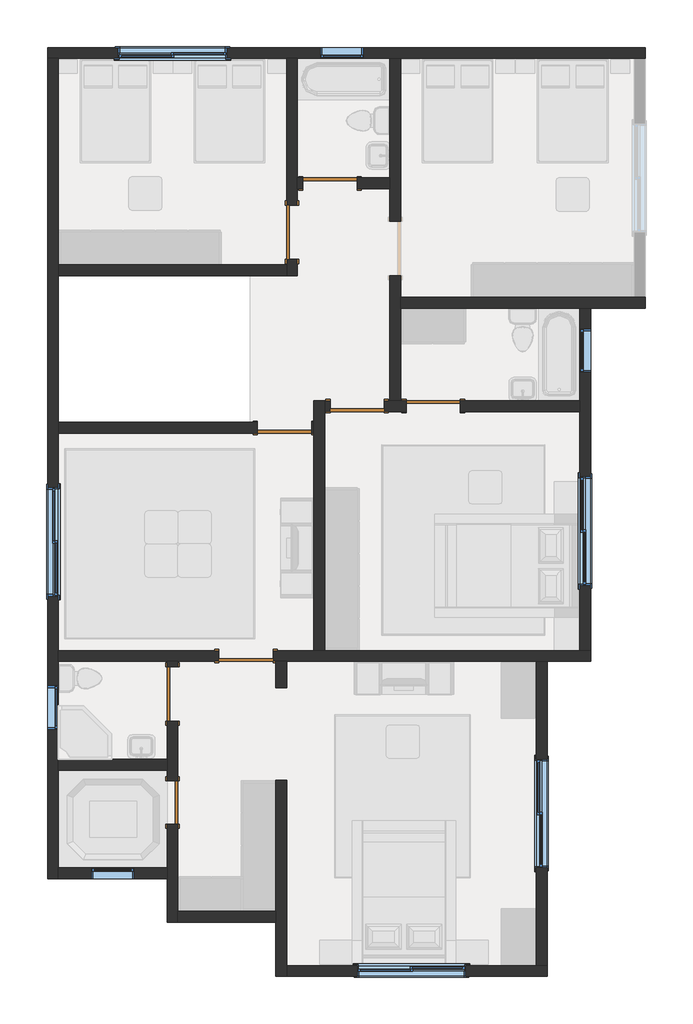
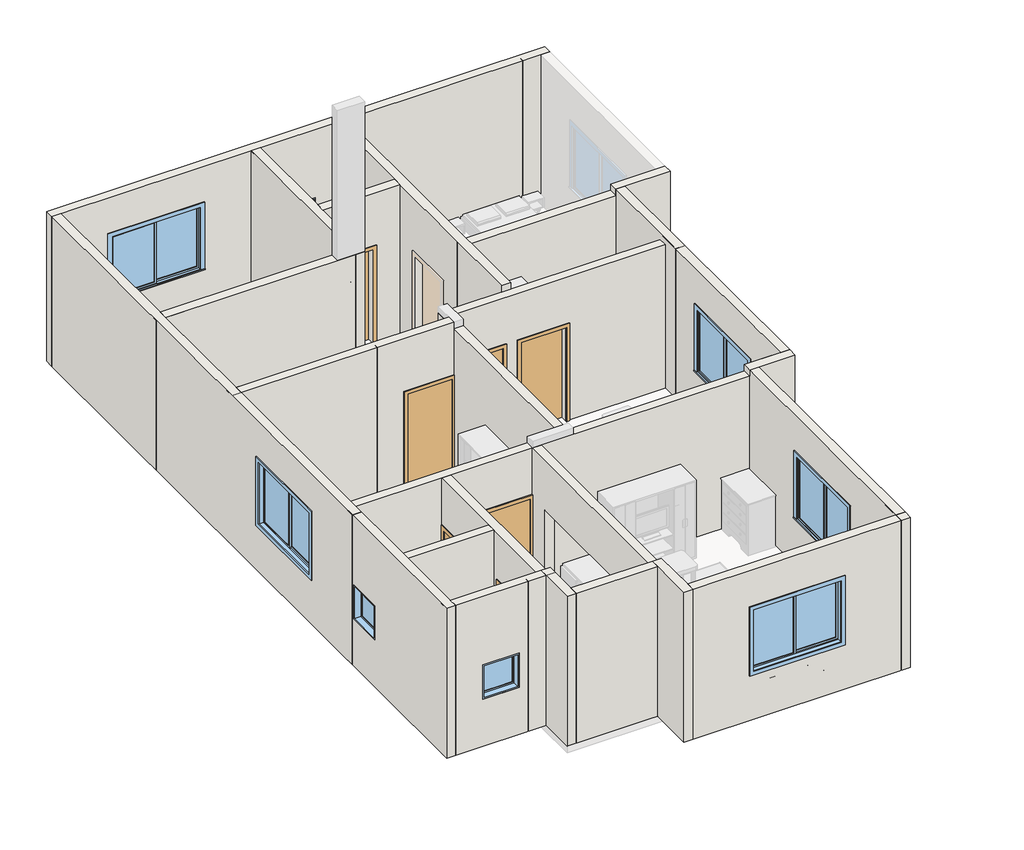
# One storey, part 1 of 2: 19 walls, 9 windows, 8 doors.
"""IFC4 building model written with IfcOpenShell, lengths in millimetres."""

import ifcopenshell
import ifcopenshell.guid

model = None  # the IFC model being written
_history = None  # IfcOwnerHistory: only IFC2X3 demands one
_inside = {}  # id of a spatial element -> (the spatial element, [elements in it])
_under = {}  # id of a project, library or spatial element -> (it, [spatial elements below it])
_declared = {}  # id of a project -> (the project, [libraries it declares])
_typed = {}  # id of a type object -> (the type object, [elements of that type])
_made_of = {}  # id of a material, layer set ... -> (it, [elements and type objects made of it])


def new_model(schema):
    """Start an empty IFC model of exactly this schema.

    Asked for "IFC4X3", IfcOpenShell would pick the latest addendum, in which some entities
    have other attributes; the version numbers below select the first issue.
    IFC2X3 requires an IfcOwnerHistory on every rooted entity: one is made here for all.
    """
    global model, _history
    if schema == "IFC4X3":
        model = ifcopenshell.file(schema_version=(4, 3, 0, 0))
    else:
        model = ifcopenshell.file(schema=schema)
    _inside.clear()
    _under.clear()
    _declared.clear()
    _typed.clear()
    _made_of.clear()
    _history = None
    if model.schema == "IFC2X3":
        org = make("IfcOrganization", Name="unknown")
        user = make(
            "IfcPersonAndOrganization",
            ThePerson=make("IfcPerson", FamilyName="unknown"),
            TheOrganization=org,
        )
        app = make(
            "IfcApplication",
            ApplicationDeveloper=org,
            Version="unknown",
            ApplicationFullName="unknown",
            ApplicationIdentifier="unknown",
        )
        _history = make(
            "IfcOwnerHistory",
            OwningUser=user,
            OwningApplication=app,
            ChangeAction="ADDED",
            CreationDate=0,
        )
    return model


def make(cls, **values):
    """One entity of the class cls with the attributes given. An attribute that is None is left unset."""
    return model.create_entity(
        cls, **{name: value for name, value in values.items() if value is not None}
    )


def rooted(cls, **values):
    """An entity with a GlobalId (a new one), such as an element, a storey or a relation."""
    return make(cls, GlobalId=ifcopenshell.guid.new(), OwnerHistory=_history, **values)


def si_unit(unit_type, name, prefix=None):
    """IfcSIUnit, for example si_unit("LENGTHUNIT", "METRE", prefix="MILLI")."""
    return make("IfcSIUnit", UnitType=unit_type, Prefix=prefix, Name=name)


def assignment(units):
    """IfcUnitAssignment: the units of a project."""
    return None if units is None else make("IfcUnitAssignment", Units=units)


def point(xyz):
    """IfcCartesianPoint."""
    return None if xyz is None else make("IfcCartesianPoint", Coordinates=xyz)


def direction(xyz):
    """IfcDirection."""
    return None if xyz is None else make("IfcDirection", DirectionRatios=xyz)


def frame(location, z_axis=None, x_axis=None):
    """IfcAxis2Placement3D, a coordinate frame: its origin and axes. An axis left out is left unset."""
    return make(
        "IfcAxis2Placement3D",
        Location=point(location),
        Axis=direction(z_axis),
        RefDirection=direction(x_axis),
    )


def origin():
    """The frame at (0, 0, 0) with its axes left unset."""
    return frame((0.0, 0.0, 0.0))


def origin_with_axes():
    """The frame at (0, 0, 0) with the z axis (0, 0, 1) and the x axis (1, 0, 0) written out."""
    return frame((0.0, 0.0, 0.0), z_axis=(0.0, 0.0, 1.0), x_axis=(1.0, 0.0, 0.0))


def place(relative_to, where):
    """IfcLocalPlacement: puts the frame where relative to a parent placement (None: the world)."""
    return make(
        "IfcLocalPlacement", PlacementRelTo=relative_to, RelativePlacement=where
    )


def context(
    kind, dimensions, precision=None, world=None, true_north=None, identifier=None
):
    """IfcGeometricRepresentationContext, for example the 3D "Model" context."""
    return make(
        "IfcGeometricRepresentationContext",
        ContextIdentifier=identifier,
        ContextType=kind,
        CoordinateSpaceDimension=dimensions,
        Precision=precision,
        WorldCoordinateSystem=world,
        TrueNorth=true_north,
    )


def project(units=None, contexts=None):
    """IfcProject with its units and contexts."""
    return rooted(
        "IfcProject",
        Name="project",
        RepresentationContexts=contexts,
        UnitsInContext=assignment(units),
    )


def spatial(cls, under=None, at=None, **own):
    """A site, building, storey or space (cls), placed at a placement, below another one or the project."""
    s = rooted(cls, ObjectPlacement=at, **own)
    if under is not None:
        _under.setdefault(under.id(), (under, []))[1].append(s)
    return s


def polyline(points):
    """IfcPolyline through the points."""
    return make("IfcPolyline", Points=[point(p) for p in points])


def outline(outer, holes=None, kind="AREA"):
    """IfcArbitraryClosedProfileDef: a profile drawn as a closed curve; with holes, ...WithVoids."""
    if holes is None:
        return make("IfcArbitraryClosedProfileDef", ProfileType=kind, OuterCurve=outer)
    return make(
        "IfcArbitraryProfileDefWithVoids",
        ProfileType=kind,
        OuterCurve=outer,
        InnerCurves=holes,
    )


def extrude(swept, where, along, depth):
    """IfcExtrudedAreaSolid: the profile swept, set in the frame where, extruded along a direction by depth."""
    return make(
        "IfcExtrudedAreaSolid",
        SweptArea=swept,
        Position=where,
        ExtrudedDirection=direction(along),
        Depth=depth,
    )


def faces_of(points, faces, orient=None, outer=None):
    """IfcFace entities. A face is a list of loops; a loop is a list of indices into points, from 0.

    orient and outer hold one flag for each loop. By default every Orientation is true, the
    first loop of a face is its IfcFaceOuterBound and the others are IfcFaceBound.
    """
    made = []
    for i, loops in enumerate(faces):
        bounds = []
        for j, loop in enumerate(loops):
            is_outer = j == 0 if outer is None else outer[i][j]
            bounds.append(
                make(
                    "IfcFaceOuterBound" if is_outer else "IfcFaceBound",
                    Bound=make("IfcPolyLoop", Polygon=[points[k] for k in loop]),
                    Orientation=True if orient is None else orient[i][j],
                )
            )
        made.append(make("IfcFace", Bounds=bounds))
    return made


def faceted_brep(points, faces, orient=None, outer=None, voids=None):
    """IfcFacetedBrep: a solid bounded by flat faces; with voids (closed shells), ...WithVoids."""
    shared = [point(p) for p in points]
    hull = make("IfcClosedShell", CfsFaces=faces_of(shared, faces, orient, outer))
    if voids is None:
        return make("IfcFacetedBrep", Outer=hull)
    return make(
        "IfcFacetedBrepWithVoids",
        Outer=hull,
        Voids=[
            make(cls, CfsFaces=faces_of(shared, fs, o, b)) for cls, fs, o, b in voids
        ],
    )


def shape(context_of_items, identifier, shape_type, items):
    """IfcShapeRepresentation: the items that make up one representation, for example the "Body"."""
    return make(
        "IfcShapeRepresentation",
        ContextOfItems=context_of_items,
        RepresentationIdentifier=identifier,
        RepresentationType=shape_type,
        Items=items,
    )


def source(mapping_origin, context_of_items, identifier, shape_type, items):
    """IfcRepresentationMap: a shape defined once, which mapped items show again and again."""
    return make(
        "IfcRepresentationMap",
        MappingOrigin=mapping_origin,
        MappedRepresentation=shape(context_of_items, identifier, shape_type, items),
    )


def transform(
    local_origin,
    x_axis=None,
    y_axis=None,
    z_axis=None,
    scale=None,
    scale2=None,
    scale3=None,
    uniform=True,
):
    """IfcCartesianTransformationOperator3D, or its non-uniform kind. x_axis, y_axis, z_axis: its Axis1, 2, 3."""
    if uniform:
        return make(
            "IfcCartesianTransformationOperator3D",
            Axis1=direction(x_axis),
            Axis2=direction(y_axis),
            LocalOrigin=point(local_origin),
            Scale=scale,
            Axis3=direction(z_axis),
        )
    return make(
        "IfcCartesianTransformationOperator3DnonUniform",
        Axis1=direction(x_axis),
        Axis2=direction(y_axis),
        LocalOrigin=point(local_origin),
        Scale=scale,
        Axis3=direction(z_axis),
        Scale2=scale2,
        Scale3=scale3,
    )


def mapped(mapping_source, mapping_target):
    """IfcMappedItem: shows the shape of a source again, moved by a transform."""
    return make(
        "IfcMappedItem", MappingSource=mapping_source, MappingTarget=mapping_target
    )


def made_of(thing, what):
    """Note that an element or type object is made of a material, layer set ...; save() writes the relation."""
    if what is not None:
        _made_of.setdefault(what.id(), (what, []))[1].append(thing)
    return thing


def element(
    cls,
    number,
    at=None,
    inside=None,
    cuts=None,
    type_object=None,
    material=None,
    context=None,
    identifier="Body",
    shape_type=None,
    held_by="IfcProductDefinitionShape",
    body=None,
    shapes=None,
    **own,
):
    """One element of the class cls, such as IfcWall. Its Tag is "e" and its number.

    at: its placement. inside: the storey or other place that contains it. cuts: it is an
    opening in that element (IfcRelVoidsElement). A single representation is given by context,
    identifier, shape_type and body (its items); several are given by shapes. held_by: the class
    of the entity that holds the representations. save() writes the other relations.
    """
    e = rooted(cls, Tag="e%d" % number, ObjectPlacement=at, **own)
    if body is not None:
        shapes = [shape(context, identifier, shape_type, body)]
    if shapes is not None:
        e.Representation = make(held_by, Representations=shapes)
    if inside is not None:
        _inside.setdefault(inside.id(), (inside, []))[1].append(e)
    if cuts is not None:
        rooted(
            "IfcRelVoidsElement", RelatingBuildingElement=cuts, RelatedOpeningElement=e
        )
    if type_object is not None:
        _typed.setdefault(type_object.id(), (type_object, []))[1].append(e)
    return made_of(e, material)


def aggregate(whole, parts):
    """IfcRelAggregates: a whole, such as a stair, and the parts it consists of."""
    return rooted("IfcRelAggregates", RelatingObject=whole, RelatedObjects=parts)


def save(model, path):
    """Write the relations noted so far, then the file.

    IfcRelAggregates (storeys below a building ...), IfcRelContainedInSpatialStructure (elements
    in a storey), IfcRelDefinesByType, IfcRelAssociatesMaterial and IfcRelDeclares: one each for
    every whole, place, type object, material and project.
    """
    for whole, parts in _under.values():
        aggregate(whole, parts)
    for where, things in _inside.values():
        rooted(
            "IfcRelContainedInSpatialStructure",
            RelatedElements=things,
            RelatingStructure=where,
        )
    for kind, things in _typed.values():
        rooted("IfcRelDefinesByType", RelatedObjects=things, RelatingType=kind)
    for what, things in _made_of.values():
        rooted("IfcRelAssociatesMaterial", RelatedObjects=things, RelatingMaterial=what)
    for by, libraries in _declared.values():
        rooted("IfcRelDeclares", RelatingContext=by, RelatedDefinitions=libraries)
    model.write(path)


def m_single_flush_5dd7b505(model_context):
    return source(origin(), model_context, "Body", "SweptSolid", [
        extrude(outline(polyline([(2276.0, -576.0), (0.0, -576.0), (0.0, -500.0), (2200.0, -500.0), (2200.0, 500.0), (0.0, 500.0), (0.0, 576.0), (2276.0, 576.0), (2276.0, -576.0)])), frame((0.0, 100.0, 0.0), z_axis=(0.0, 1.0, 0.0), x_axis=(0.0, 0.0, 1.0)), (0.0, 0.0, 1.0), 25.0),
        extrude(outline(polyline([(2276.0, 576.0), (2276.0, -576.0), (0.0, -576.0), (0.0, -500.0), (2200.0, -500.0), (2200.0, 500.0), (0.0, 500.0), (0.0, 576.0), (2276.0, 576.0)])), frame((0.0, -125.0, 0.0), z_axis=(0.0, 1.0, 0.0), x_axis=(0.0, 0.0, 1.0)), (0.0, 0.0, 1.0), 25.0),
        extrude(outline(polyline([(500.0, 49.0), (-500.0, 49.0), (-500.0, 100.0), (500.0, 100.0), (500.0, 49.0)])), origin_with_axes(), (0.0, 0.0, 1.0), 2200.0),
    ])


def m_single_flush_07c1bf8b(model_context):
    return source(origin(), model_context, "Body", "SweptSolid", [
        extrude(outline(polyline([(2276.0, -476.0), (0.0, -476.0), (0.0, -400.0), (2200.0, -400.0), (2200.0, 400.0), (0.0, 400.0), (0.0, 476.0), (2276.0, 476.0), (2276.0, -476.0)])), frame((0.0, -125.0, 0.0), z_axis=(0.0, 1.0, 0.0), x_axis=(0.0, 0.0, 1.0)), (0.0, 0.0, 1.0), 25.0),
        extrude(outline(polyline([(2276.0, 476.0), (2276.0, -476.0), (0.0, -476.0), (0.0, -400.0), (2200.0, -400.0), (2200.0, 400.0), (0.0, 400.0), (0.0, 476.0), (2276.0, 476.0)])), frame((0.0, 100.0, 0.0), z_axis=(0.0, 1.0, 0.0), x_axis=(0.0, 0.0, 1.0)), (0.0, 0.0, 1.0), 25.0),
        extrude(outline(polyline([(400.0, -49.0), (400.0, -100.0), (-400.0, -100.0), (-400.0, -49.0), (400.0, -49.0)])), origin_with_axes(), (0.0, 0.0, 1.0), 2200.0),
    ])


def m_single_flush_6cbb3975(model_context):
    return source(origin(), model_context, "Body", "SweptSolid", [
        extrude(outline(polyline([(2276.0, -576.0), (0.0, -576.0), (0.0, -500.0), (2200.0, -500.0), (2200.0, 500.0), (0.0, 500.0), (0.0, 576.0), (2276.0, 576.0), (2276.0, -576.0)])), frame((0.0, -125.0, 0.0), z_axis=(0.0, 1.0, 0.0), x_axis=(0.0, 0.0, 1.0)), (0.0, 0.0, 1.0), 25.0),
        extrude(outline(polyline([(2276.0, 576.0), (2276.0, -576.0), (0.0, -576.0), (0.0, -500.0), (2200.0, -500.0), (2200.0, 500.0), (0.0, 500.0), (0.0, 576.0), (2276.0, 576.0)])), frame((0.0, 100.0, 0.0), z_axis=(0.0, 1.0, 0.0), x_axis=(0.0, 0.0, 1.0)), (0.0, 0.0, 1.0), 25.0),
        extrude(outline(polyline([(500.0, -49.0), (500.0, -100.0), (-500.0, -100.0), (-500.0, -49.0), (500.0, -49.0)])), origin_with_axes(), (0.0, 0.0, 1.0), 2200.0),
    ])


def m_fixed_1d0fbe82(model_context):
    return source(origin(), model_context, "Body", "SweptSolid", [
        extrude(outline(polyline([(-337.0, 78.0), (337.0, 78.0), (337.0, 66.0), (-337.0, 66.0), (-337.0, 78.0)])), frame((0.0, 0.0, 1563.0), z_axis=(0.0, 0.0, 1.0), x_axis=(1.0, 0.0, 0.0)), (0.0, 0.0, 1.0), 674.0),
        extrude(outline(polyline([(2281.0, -381.0), (1519.0, -381.0), (1519.0, 381.0), (2281.0, 381.0), (2281.0, -381.0)]), holes=[polyline([(2237.0, -337.0), (2237.0, 337.0), (1563.0, 337.0), (1563.0, -337.0), (2237.0, -337.0)])]), frame((0.0, 50.0, 0.0), z_axis=(0.0, 1.0, 0.0), x_axis=(0.0, 0.0, 1.0)), (0.0, 0.0, 1.0), 44.0),
        extrude(outline(polyline([(2300.0, -400.0), (1500.0, -400.0), (1500.0, 400.0), (2300.0, 400.0), (2300.0, -400.0)]), holes=[polyline([(2281.0, -381.0), (2281.0, 381.0), (1519.0, 381.0), (1519.0, -381.0), (2281.0, -381.0)])]), frame((0.0, 50.0, 0.0), z_axis=(0.0, 1.0, 0.0), x_axis=(0.0, 0.0, 1.0)), (0.0, 0.0, 1.0), 63.0),
        extrude(outline(polyline([(2300.0, -400.0), (1500.0, -400.0), (1500.0, 400.0), (2300.0, 400.0), (2300.0, -400.0)]), holes=[polyline([(2268.0, -368.0), (2268.0, 368.0), (1532.0, 368.0), (1532.0, -368.0), (2268.0, -368.0)])]), frame((0.0, -87.0, 0.0), z_axis=(0.0, 1.0, 0.0), x_axis=(0.0, 0.0, 1.0)), (0.0, 0.0, 1.0), 137.0),
    ])


def m_fixed_a47e0898(model_context):
    return source(origin(), model_context, "Body", "SweptSolid", [
        extrude(outline(polyline([(-337.0, -78.0), (-337.0, -66.0), (337.0, -66.0), (337.0, -78.0), (-337.0, -78.0)])), frame((0.0, 0.0, 1563.0), z_axis=(0.0, 0.0, 1.0), x_axis=(1.0, 0.0, 0.0)), (0.0, 0.0, 1.0), 674.0),
        extrude(outline(polyline([(2281.0, -381.0), (1519.0, -381.0), (1519.0, 381.0), (2281.0, 381.0), (2281.0, -381.0)]), holes=[polyline([(2237.0, -337.0), (2237.0, 337.0), (1563.0, 337.0), (1563.0, -337.0), (2237.0, -337.0)])]), frame((0.0, -94.0, 0.0), z_axis=(0.0, 1.0, 0.0), x_axis=(0.0, 0.0, 1.0)), (0.0, 0.0, 1.0), 44.0),
        extrude(outline(polyline([(2300.0, -400.0), (1500.0, -400.0), (1500.0, 400.0), (2300.0, 400.0), (2300.0, -400.0)]), holes=[polyline([(2281.0, -381.0), (2281.0, 381.0), (1519.0, 381.0), (1519.0, -381.0), (2281.0, -381.0)])]), frame((0.0, -113.0, 0.0), z_axis=(0.0, 1.0, 0.0), x_axis=(0.0, 0.0, 1.0)), (0.0, 0.0, 1.0), 63.0),
        extrude(outline(polyline([(2300.0, -400.0), (1500.0, -400.0), (1500.0, 400.0), (2300.0, 400.0), (2300.0, -400.0)]), holes=[polyline([(2268.0, -368.0), (2268.0, 368.0), (1532.0, 368.0), (1532.0, -368.0), (2268.0, -368.0)])]), frame((0.0, -50.0, 0.0), z_axis=(0.0, 1.0, 0.0), x_axis=(0.0, 0.0, 1.0)), (0.0, 0.0, 1.0), 137.0),
    ])


def m_sliding_with_trim_8e0fa824(model_context):
    return source(origin(), model_context, "Body", "SweptSolid", [
        extrude(outline(polyline([(-936.5, 20.675), (-22.225, 20.675), (-22.225, 7.975), (-936.5, 7.975), (-936.5, 20.675)])), frame((0.0, 0.0, 978.5), z_axis=(0.0, 0.0, 1.0), x_axis=(1.0, 0.0, 0.0)), (0.0, 0.0, 1.0), 1373.0),
        extrude(outline(polyline([(2395.95, -980.95), (934.05, -980.95), (934.05, 22.225), (2395.95, 22.225), (2395.95, -980.95)]), holes=[polyline([(2351.5, -936.5), (2351.5, -22.225), (978.5, -22.225), (978.5, -936.5), (2351.5, -936.5)])]), frame((0.0, -7.9, 0.0), z_axis=(0.0, 1.0, 0.0), x_axis=(0.0, 0.0, 1.0)), (0.0, 0.0, 1.0), 44.45),
        extrude(outline(polyline([(-1069.95, 131.7), (1069.95, 131.7), (1069.95, 100.0), (-1069.95, 100.0), (-1069.95, 131.7)])), frame((0.0, 0.0, 915.0), z_axis=(0.0, 0.0, 1.0), x_axis=(1.0, 0.0, 0.0)), (0.0, 0.0, 1.0), 19.05),
        extrude(outline(polyline([(2395.95, -980.95), (2395.95, 980.95), (934.05, 980.95), (934.05, 1069.95), (2484.95, 1069.95), (2484.95, -1069.95), (934.05, -1069.95), (934.05, -980.95), (2395.95, -980.95)])), frame((0.0, 100.0, 0.0), z_axis=(0.0, 1.0, 0.0), x_axis=(0.0, 0.0, 1.0)), (0.0, 0.0, 1.0), 19.0),
        extrude(outline(polyline([(2472.25, 1057.25), (2472.25, -1057.25), (857.75, -1057.25), (857.75, 1057.25), (2472.25, 1057.25)]), holes=[polyline([(2383.25, 968.25), (946.75, 968.25), (946.75, -968.25), (2383.25, -968.25), (2383.25, 968.25)])]), frame((0.0, -119.0, 0.0), z_axis=(0.0, 1.0, 0.0), x_axis=(0.0, 0.0, 1.0)), (0.0, 0.0, 1.0), 19.0),
        extrude(outline(polyline([(936.5, 52.425), (22.225, 52.425), (22.225, 65.125), (936.5, 65.125), (936.5, 52.425)])), frame((0.0, 0.0, 978.5), z_axis=(0.0, 0.0, 1.0), x_axis=(1.0, 0.0, 0.0)), (0.0, 0.0, 1.0), 1373.0),
        extrude(outline(polyline([(2395.95, -22.225), (934.05, -22.225), (934.05, 980.95), (2395.95, 980.95), (2395.95, -22.225)]), holes=[polyline([(2351.5, 22.225), (2351.5, 936.5), (978.5, 936.5), (978.5, 22.225), (2351.5, 22.225)])]), frame((0.0, 36.55, 0.0), z_axis=(0.0, 1.0, 0.0), x_axis=(0.0, 0.0, 1.0)), (0.0, 0.0, 1.0), 44.45),
        extrude(outline(polyline([(2415.0, -1000.0), (915.0, -1000.0), (915.0, 1000.0), (2415.0, 1000.0), (2415.0, -1000.0)]), holes=[polyline([(2383.25, -968.25), (2383.25, 968.25), (946.75, 968.25), (946.75, -968.25), (2383.25, -968.25)])]), frame((0.0, -100.0, 0.0), z_axis=(0.0, 1.0, 0.0), x_axis=(0.0, 0.0, 1.0)), (0.0, 0.0, 1.0), 92.1),
        extrude(outline(polyline([(2415.0, 1000.0), (2415.0, -1000.0), (915.0, -1000.0), (915.0, 1000.0), (2415.0, 1000.0)]), holes=[polyline([(2395.95, 980.95), (934.05, 980.95), (934.05, -980.95), (2395.95, -980.95), (2395.95, 980.95)])]), frame((0.0, -7.9, 0.0), z_axis=(0.0, 1.0, 0.0), x_axis=(0.0, 0.0, 1.0)), (0.0, 0.0, 1.0), 107.9),
    ])


model = new_model("IFC4")

# Units and contexts
model_context = context("Model", 3, world=origin())
ifc_project = project(units=[si_unit("LENGTHUNIT", "METRE", prefix="MILLI")], contexts=[model_context])

# Site, building, storey
site = spatial("IfcSite", under=ifc_project)
building = spatial("IfcBuilding", under=site)
storey = spatial("IfcBuildingStorey", under=building, Name="الدور الأول", Elevation=3500.0)

# Doors
placement = place(None, origin())
m_single_flush_shape = m_single_flush_5dd7b505(model_context)
element("IfcDoor", 1, ObjectType="M_Single-Flush : ب 1", at=placement, inside=storey, context=model_context, shape_type="MappedRepresentation", body=[
    mapped(m_single_flush_shape, transform((-118.9848222, 1629.7272556, 3500.0), x_axis=(-1.0, 0.0, 0.0), y_axis=(0.0, -1.0, 0.0), z_axis=(0.0, 0.0, 1.0))),
])
element("IfcDoor", 2, ObjectType="M_Single-Flush : ب 1", at=placement, inside=storey, context=model_context, shape_type="MappedRepresentation", body=[
    mapped(m_single_flush_shape, transform((-3518.9848222, -3670.2727444, 3500.0), x_axis=(0.0, 1.0, 0.0), y_axis=(-1.0, 0.0, 0.0), z_axis=(0.0, 0.0, 1.0))),
])
m_single_flush_2_shape = m_single_flush_07c1bf8b(model_context)
element("IfcDoor", 3, ObjectType="M_Single-Flush : ب 8", at=placement, inside=storey, context=model_context, shape_type="MappedRepresentation", body=[
    mapped(m_single_flush_2_shape, transform((-3518.9848222, -5670.2727444, 3500.0), x_axis=(0.0, 1.0, 0.0), y_axis=(-1.0, 0.0, 0.0), z_axis=(0.0, 0.0, 1.0))),
])
m_single_flush_3_shape = m_single_flush_6cbb3975(model_context)
element("IfcDoor", 4, ObjectType="M_Single-Flush : ب 1", at=placement, inside=storey, context=model_context, shape_type="MappedRepresentation", body=[
    mapped(m_single_flush_3_shape, transform((-1318.9848222, 4829.7272556, 3500.0), x_axis=(0.0, -1.0, 0.0), y_axis=(1.0, 0.0, 0.0), z_axis=(0.0, 0.0, 1.0))),
])
element("IfcDoor", 5, ObjectType="M_Single-Flush : ب 1", at=placement, inside=storey, context=model_context, shape_type="MappedRepresentation", body=[
    mapped(m_single_flush_3_shape, transform((-618.9848222, 5729.7272556, 3500.0), x_axis=(-1.0, 0.0, 0.0), y_axis=(0.0, -1.0, 0.0), z_axis=(0.0, 0.0, 1.0))),
])
element("IfcDoor", 6, ObjectType="M_Single-Flush : ب 1", at=placement, inside=storey, context=model_context, shape_type="MappedRepresentation", body=[
    mapped(m_single_flush_3_shape, transform((1281.0151778, 1629.7272556, 3500.0), x_axis=(-1.0, 0.0, 0.0), y_axis=(0.0, -1.0, 0.0), z_axis=(0.0, 0.0, 1.0))),
])
element("IfcDoor", 7, ObjectType="M_Single-Flush : ب 1", at=placement, inside=storey, context=model_context, shape_type="MappedRepresentation", body=[
    mapped(m_single_flush_3_shape, transform((-1458.9848222, 1229.7272556, 3500.0), x_axis=(1.0, 0.0, 0.0), y_axis=(0.0, 1.0, 0.0), z_axis=(0.0, 0.0, 1.0))),
])
element("IfcDoor", 8, ObjectType="M_Single-Flush : ب 1", at=placement, inside=storey, context=model_context, shape_type="MappedRepresentation", body=[
    mapped(m_single_flush_3_shape, transform((-2163.9848222, -2970.2727444, 3500.0), x_axis=(1.0, 0.0, 0.0), y_axis=(0.0, 1.0, 0.0), z_axis=(0.0, 0.0, 1.0))),
])

# Walls
element("IfcWall", 9, ObjectType="FF- 200mm", at=placement, inside=storey, context=model_context, shape_type="Brep", body=[
    faceted_brep([(-5818.9848222, 8029.7272556, 3500.0), (-5618.9848222, 8029.7272556, 3500.0), (-1418.9848222, 8029.7272556, 3500.0), (-1218.9848222, 8029.7272556, 3500.0), (481.0151778, 8029.7272556, 3500.0), (681.0151778, 8029.7272556, 3500.0), (4981.0151778, 8029.7272556, 3500.0), (5181.0151778, 8029.7272556, 3500.0), (5181.0151778, 8029.7272556, 7000.0), (4981.0151778, 8029.7272556, 7000.0), (681.0151778, 8029.7272556, 7000.0), (481.0151778, 8029.7272556, 7000.0), (-1218.9848222, 8029.7272556, 7000.0), (-1418.9848222, 8029.7272556, 7000.0), (-5618.9848222, 8029.7272556, 7000.0), (-5818.9848222, 8029.7272556, 7000.0), (-798.9848222, 8029.7272556, 4600.0), (-798.9848222, 8029.7272556, 5400.0), (1.0151778, 8029.7272556, 5400.0), (1.0151778, 8029.7272556, 4600.0), (-4518.9848222, 8029.7272556, 6100.0), (-2518.9848222, 8029.7272556, 6100.0), (-2518.9848222, 8029.7272556, 4600.0), (-4518.9848222, 8029.7272556, 4600.0), (-5818.9848222, 8229.7272556, 3500.0), (-5818.9848222, 8229.7272556, 7000.0), (5181.0151778, 8229.7272556, 7000.0), (5181.0151778, 8229.7272556, 3500.0), (-798.9848222, 8229.7272556, 4600.0), (1.0151778, 8229.7272556, 4600.0), (1.0151778, 8229.7272556, 5400.0), (-798.9848222, 8229.7272556, 5400.0), (-4518.9848222, 8229.7272556, 6100.0), (-4518.9848222, 8229.7272556, 4600.0), (-2518.9848222, 8229.7272556, 4600.0), (-2518.9848222, 8229.7272556, 6100.0)], [[[0, 1, 2, 3, 4, 5, 6, 7, 8, 9, 10, 11, 12, 13, 14, 15], [16, 17, 18, 19], [20, 21, 22, 23]], [[24, 25, 26, 27], [28, 29, 30, 31], [32, 33, 34, 35]], [[7, 6, 5, 4, 3, 2, 1, 0, 24, 27]], [[15, 14, 13, 12, 11, 10, 9, 8, 26, 25]], [[0, 15, 25, 24]], [[8, 7, 27, 26]], [[17, 16, 28, 31]], [[18, 17, 31, 30]], [[19, 18, 30, 29]], [[16, 19, 29, 28]], [[33, 32, 20, 23]], [[34, 33, 23, 22]], [[35, 34, 22, 21]], [[32, 35, 21, 20]]]),
])
element("IfcWall", 10, ObjectType="FF- 200mm", at=placement, inside=storey, context=model_context, shape_type="Brep", body=[
    faceted_brep([(-5618.9848222, -7070.2727444, 3500.0), (-5618.9848222, -6870.2727444, 3500.0), (-5618.9848222, -5070.2727444, 3500.0), (-5618.9848222, -4870.2727444, 3500.0), (-5618.9848222, -3070.2727444, 3500.0), (-5618.9848222, -2870.2727444, 3500.0), (-5618.9848222, 1129.7272556, 3500.0), (-5618.9848222, 1329.7272556, 3500.0), (-5618.9848222, 4029.7272556, 3500.0), (-5618.9848222, 4229.7272556, 3500.0), (-5618.9848222, 8029.7272556, 3500.0), (-5618.9848222, 8029.7272556, 7000.0), (-5618.9848222, 4229.7272556, 7000.0), (-5618.9848222, 4029.7272556, 7000.0), (-5618.9848222, 1329.7272556, 7000.0), (-5618.9848222, 1129.7272556, 7000.0), (-5618.9848222, -2870.2727444, 7000.0), (-5618.9848222, -3070.2727444, 7000.0), (-5618.9848222, -4870.2727444, 7000.0), (-5618.9848222, -5070.2727444, 7000.0), (-5618.9848222, -6870.2727444, 7000.0), (-5618.9848222, -7070.2727444, 7000.0), (-5618.9848222, -3520.2727444, 4600.0), (-5618.9848222, -4320.2727444, 4600.0), (-5618.9848222, -4320.2727444, 5400.0), (-5618.9848222, -3520.2727444, 5400.0), (-5618.9848222, -1870.2727444, 6100.0), (-5618.9848222, 129.7272556, 6100.0), (-5618.9848222, 129.7272556, 4600.0), (-5618.9848222, -1870.2727444, 4600.0), (-5818.9848222, -7070.2727444, 3500.0), (-5818.9848222, -7070.2727444, 7000.0), (-5818.9848222, 8029.7272556, 7000.0), (-5818.9848222, 8029.7272556, 3500.0), (-5818.9848222, -3520.2727444, 4600.0), (-5818.9848222, -3520.2727444, 5400.0), (-5818.9848222, -4320.2727444, 5400.0), (-5818.9848222, -4320.2727444, 4600.0), (-5818.9848222, -1870.2727444, 6100.0), (-5818.9848222, -1870.2727444, 4600.0), (-5818.9848222, 129.7272556, 4600.0), (-5818.9848222, 129.7272556, 6100.0)], [[[0, 1, 2, 3, 4, 5, 6, 7, 8, 9, 10, 11, 12, 13, 14, 15, 16, 17, 18, 19, 20, 21], [22, 23, 24, 25], [26, 27, 28, 29]], [[30, 31, 32, 33], [34, 35, 36, 37], [38, 39, 40, 41]], [[10, 9, 8, 7, 6, 5, 4, 3, 2, 1, 0, 30, 33]], [[21, 20, 19, 18, 17, 16, 15, 14, 13, 12, 11, 32, 31]], [[11, 10, 33, 32]], [[0, 21, 31, 30]], [[35, 34, 22, 25]], [[36, 35, 25, 24]], [[37, 36, 24, 23]], [[34, 37, 23, 22]], [[39, 38, 26, 29]], [[40, 39, 29, 28]], [[41, 40, 28, 27]], [[38, 41, 27, 26]]]),
])
element("IfcWall", 11, ObjectType="FF- 200mm", at=placement, inside=storey, context=model_context, shape_type="SweptSolid", body=[
    extrude(outline(polyline([(3500.0, -3618.9848222), (7000.0, -3618.9848222), (7000.0, -5618.9848222), (3500.0, -5618.9848222), (3500.0, -3618.9848222)]), holes=[polyline([(4600.0, -5018.9848222), (5400.0, -5018.9848222), (5400.0, -4218.9848222), (4600.0, -4218.9848222), (4600.0, -5018.9848222)])]), frame((0.0, -7070.2727444, 0.0), z_axis=(0.0, 1.0, 0.0), x_axis=(0.0, 0.0, 1.0)), (0.0, 0.0, 1.0), 200.0),
])
element("IfcWall", 12, ObjectType="FF- 200mm", at=placement, inside=storey, context=model_context, shape_type="Brep", body=[
    faceted_brep([(-3418.9848222, -7870.2727444, 7000.0), (-3418.9848222, -7870.2727444, 3500.0), (-3418.9848222, -7670.2727444, 3500.0), (-3418.9848222, -6070.2727444, 3500.0), (-3418.9848222, -6070.2727444, 5700.0), (-3418.9848222, -5270.2727444, 5700.0), (-3418.9848222, -5270.2727444, 3500.0), (-3418.9848222, -4170.2727444, 3500.0), (-3418.9848222, -4170.2727444, 5700.0), (-3418.9848222, -3170.2727444, 5700.0), (-3418.9848222, -3170.2727444, 3500.0), (-3418.9848222, -3070.2727444, 3500.0), (-3418.9848222, -3070.2727444, 6850.0), (-3418.9848222, -6870.2727444, 6850.0), (-3418.9848222, -6870.2727444, 7000.0), (-3418.9848222, -7670.2727444, 7000.0), (-3618.9848222, -7870.2727444, 3500.0), (-3618.9848222, -7870.2727444, 7000.0), (-3618.9848222, -7070.2727444, 7000.0), (-3618.9848222, -6870.2727444, 7000.0), (-3618.9848222, -6870.2727444, 6850.0), (-3618.9848222, -3070.2727444, 6850.0), (-3618.9848222, -3070.2727444, 3500.0), (-3618.9848222, -3170.2727444, 3500.0), (-3618.9848222, -3170.2727444, 5700.0), (-3618.9848222, -4170.2727444, 5700.0), (-3618.9848222, -4170.2727444, 3500.0), (-3618.9848222, -4870.2727444, 3500.0), (-3618.9848222, -5070.2727444, 3500.0), (-3618.9848222, -5270.2727444, 3500.0), (-3618.9848222, -5270.2727444, 5700.0), (-3618.9848222, -6070.2727444, 5700.0), (-3618.9848222, -6070.2727444, 3500.0), (-3618.9848222, -6870.2727444, 3500.0), (-3618.9848222, -7070.2727444, 3500.0)], [[[0, 1, 2, 3, 4, 5, 6, 7, 8, 9, 10, 11, 12, 13, 14, 15]], [[16, 17, 18, 19, 20, 21, 22, 23, 24, 25, 26, 27, 28, 29, 30, 31, 32, 33, 34]], [[1, 16, 34, 33, 32, 3, 2]], [[22, 11, 10, 23]], [[26, 7, 6, 29, 28, 27]], [[17, 0, 15, 14, 19, 18]], [[1, 0, 17, 16]], [[11, 22, 21, 12]], [[24, 23, 10, 9]], [[25, 24, 9, 8]], [[26, 25, 8, 7]], [[30, 29, 6, 5]], [[31, 30, 5, 4]], [[32, 31, 4, 3]], [[20, 13, 12, 21]], [[13, 20, 19, 14]]]),
])
element("IfcWall", 13, ObjectType="FF- 200mm", at=placement, inside=storey, context=model_context, shape_type="SweptSolid", body=[
    extrude(outline(polyline([(-3418.9848222, -7670.2727444), (-1618.9848222, -7670.2727444), (-1618.9848222, -7870.2727444), (-3418.9848222, -7870.2727444), (-3418.9848222, -7670.2727444)])), frame((0.0, 0.0, 3500.0), z_axis=(0.0, 0.0, 1.0), x_axis=(1.0, 0.0, 0.0)), (0.0, 0.0, 1.0), 3500.0),
])
element("IfcWall", 14, ObjectType="FF- 200mm", at=placement, inside=storey, context=model_context, shape_type="Brep", body=[
    faceted_brep([(-1418.9848222, -8870.2727444, 7000.0), (-1418.9848222, -8870.2727444, 3500.0), (-1418.9848222, -8670.2727444, 3500.0), (-1418.9848222, -5260.2727444, 3500.0), (-1418.9848222, -5260.2727444, 5700.0), (-1418.9848222, -3560.2727444, 5700.0), (-1418.9848222, -3560.2727444, 3500.0), (-1418.9848222, -3070.2727444, 3500.0), (-1418.9848222, -3070.2727444, 6850.0), (-1418.9848222, -7670.2727444, 6850.0), (-1418.9848222, -7670.2727444, 7000.0), (-1418.9848222, -8670.2727444, 7000.0), (-1618.9848222, -8870.2727444, 3500.0), (-1618.9848222, -8870.2727444, 7000.0), (-1618.9848222, -7870.2727444, 7000.0), (-1618.9848222, -7670.2727444, 7000.0), (-1618.9848222, -7670.2727444, 6850.0), (-1618.9848222, -3070.2727444, 6850.0), (-1618.9848222, -3070.2727444, 3500.0), (-1618.9848222, -3560.2727444, 3500.0), (-1618.9848222, -3560.2727444, 5700.0), (-1618.9848222, -5260.2727444, 5700.0), (-1618.9848222, -5260.2727444, 3500.0), (-1618.9848222, -7670.2727444, 3500.0), (-1618.9848222, -7870.2727444, 3500.0)], [[[0, 1, 2, 3, 4, 5, 6, 7, 8, 9, 10, 11]], [[12, 13, 14, 15, 16, 17, 18, 19, 20, 21, 22, 23, 24]], [[1, 12, 24, 23, 22, 3, 2]], [[18, 7, 6, 19]], [[13, 0, 11, 10, 15, 14]], [[1, 0, 13, 12]], [[7, 18, 17, 8]], [[22, 21, 4, 3]], [[20, 19, 6, 5]], [[21, 20, 5, 4]], [[16, 9, 8, 17]], [[9, 16, 15, 10]]]),
])
element("IfcWall", 15, ObjectType="FF- 200mm", at=placement, inside=storey, context=model_context, shape_type="Brep", body=[
    faceted_brep([(3381.0151778, -8670.2727444, 3500.0), (3181.0151778, -8670.2727444, 3500.0), (-1418.9848222, -8670.2727444, 3500.0), (-1418.9848222, -8670.2727444, 7000.0), (3181.0151778, -8670.2727444, 7000.0), (3381.0151778, -8670.2727444, 7000.0), (1881.0151778, -8670.2727444, 6100.0), (-118.9848222, -8670.2727444, 6100.0), (-118.9848222, -8670.2727444, 4600.0), (1881.0151778, -8670.2727444, 4600.0), (3381.0151778, -8870.2727444, 3500.0), (3381.0151778, -8870.2727444, 7000.0), (-1418.9848222, -8870.2727444, 7000.0), (-1418.9848222, -8870.2727444, 3500.0), (1881.0151778, -8870.2727444, 6100.0), (1881.0151778, -8870.2727444, 4600.0), (-118.9848222, -8870.2727444, 4600.0), (-118.9848222, -8870.2727444, 6100.0)], [[[0, 1, 2, 3, 4, 5], [6, 7, 8, 9]], [[10, 11, 12, 13], [14, 15, 16, 17]], [[2, 1, 0, 10, 13]], [[5, 4, 3, 12, 11]], [[3, 2, 13, 12]], [[0, 5, 11, 10]], [[15, 14, 6, 9]], [[16, 15, 9, 8]], [[17, 16, 8, 7]], [[14, 17, 7, 6]]]),
])
element("IfcWall", 16, ObjectType="FF- 200mm", at=placement, inside=storey, context=model_context, shape_type="SweptSolid", body=[
    extrude(outline(polyline([(-3070.2727444, 3500.0), (-8670.2727444, 3500.0), (-8670.2727444, 7000.0), (-3070.2727444, 7000.0), (-3070.2727444, 3500.0)]), holes=[polyline([(-4870.2727444, 6100.0), (-6870.2727444, 6100.0), (-6870.2727444, 4600.0), (-4870.2727444, 4600.0), (-4870.2727444, 6100.0)])]), frame((3181.0151778, 0.0, 0.0), z_axis=(1.0, 0.0, 0.0), x_axis=(0.0, 1.0, 0.0)), (0.0, 0.0, 1.0), 200.0),
])
element("IfcWall", 17, ObjectType="FF- 200mm", at=placement, inside=storey, context=model_context, shape_type="Brep", body=[
    faceted_brep([(4181.0151778, -2870.2727444, 7000.0), (4181.0151778, -2870.2727444, 3500.0), (3981.0151778, -2870.2727444, 3500.0), (-718.9848222, -2870.2727444, 3500.0), (-918.9848222, -2870.2727444, 3500.0), (-1663.9848222, -2870.2727444, 3500.0), (-1663.9848222, -2870.2727444, 5700.0), (-2663.9848222, -2870.2727444, 5700.0), (-2663.9848222, -2870.2727444, 3500.0), (-5618.9848222, -2870.2727444, 3500.0), (-5618.9848222, -2870.2727444, 6850.0), (3181.0151778, -2870.2727444, 6850.0), (3181.0151778, -2870.2727444, 7000.0), (3981.0151778, -2870.2727444, 7000.0), (4181.0151778, -3070.2727444, 3500.0), (4181.0151778, -3070.2727444, 7000.0), (3381.0151778, -3070.2727444, 7000.0), (3181.0151778, -3070.2727444, 7000.0), (3181.0151778, -3070.2727444, 6850.0), (-1418.9848222, -3070.2727444, 6850.0), (-1618.9848222, -3070.2727444, 6850.0), (-3418.9848222, -3070.2727444, 6850.0), (-3618.9848222, -3070.2727444, 6850.0), (-5618.9848222, -3070.2727444, 6850.0), (-5618.9848222, -3070.2727444, 3500.0), (-3618.9848222, -3070.2727444, 3500.0), (-3418.9848222, -3070.2727444, 3500.0), (-2663.9848222, -3070.2727444, 3500.0), (-2663.9848222, -3070.2727444, 5700.0), (-1663.9848222, -3070.2727444, 5700.0), (-1663.9848222, -3070.2727444, 3500.0), (-1618.9848222, -3070.2727444, 3500.0), (-1418.9848222, -3070.2727444, 3500.0), (3181.0151778, -3070.2727444, 3500.0), (3381.0151778, -3070.2727444, 3500.0)], [[[0, 1, 2, 3, 4, 5, 6, 7, 8, 9, 10, 11, 12, 13]], [[14, 15, 16, 17, 18, 19, 20, 21, 22, 23, 24, 25, 26, 27, 28, 29, 30, 31, 32, 33, 34]], [[1, 14, 34, 33, 32, 31, 30, 5, 4, 3, 2]], [[24, 9, 8, 27, 26, 25]], [[15, 0, 13, 12, 17, 16]], [[1, 0, 15, 14]], [[9, 24, 23, 10]], [[6, 5, 30, 29]], [[7, 6, 29, 28]], [[8, 7, 28, 27]], [[18, 11, 10, 23, 22, 21, 20, 19]], [[11, 18, 17, 12]]]),
])
element("IfcWall", 18, ObjectType="FF- 200mm", at=placement, inside=storey, context=model_context, shape_type="Brep", body=[
    faceted_brep([(3981.0151778, 3429.7272556, 3500.0), (3981.0151778, 1729.7272556, 3500.0), (3981.0151778, 1529.7272556, 3500.0), (3981.0151778, -2870.2727444, 3500.0), (3981.0151778, -2870.2727444, 7000.0), (3981.0151778, 1529.7272556, 7000.0), (3981.0151778, 1729.7272556, 7000.0), (3981.0151778, 3429.7272556, 7000.0), (3981.0151778, 3049.7272556, 4600.0), (3981.0151778, 3049.7272556, 5400.0), (3981.0151778, 2249.7272556, 5400.0), (3981.0151778, 2249.7272556, 4600.0), (3981.0151778, 329.7272556, 6100.0), (3981.0151778, -1670.2727444, 6100.0), (3981.0151778, -1670.2727444, 4600.0), (3981.0151778, 329.7272556, 4600.0), (4181.0151778, 3429.7272556, 3500.0), (4181.0151778, 3429.7272556, 7000.0), (4181.0151778, -2870.2727444, 7000.0), (4181.0151778, -2870.2727444, 3500.0), (4181.0151778, 3049.7272556, 4600.0), (4181.0151778, 2249.7272556, 4600.0), (4181.0151778, 2249.7272556, 5400.0), (4181.0151778, 3049.7272556, 5400.0), (4181.0151778, 329.7272556, 6100.0), (4181.0151778, 329.7272556, 4600.0), (4181.0151778, -1670.2727444, 4600.0), (4181.0151778, -1670.2727444, 6100.0)], [[[0, 1, 2, 3, 4, 5, 6, 7], [8, 9, 10, 11], [12, 13, 14, 15]], [[16, 17, 18, 19], [20, 21, 22, 23], [24, 25, 26, 27]], [[3, 2, 1, 0, 16, 19]], [[7, 6, 5, 4, 18, 17]], [[4, 3, 19, 18]], [[0, 7, 17, 16]], [[9, 8, 20, 23]], [[10, 9, 23, 22]], [[11, 10, 22, 21]], [[8, 11, 21, 20]], [[25, 24, 12, 15]], [[26, 25, 15, 14]], [[27, 26, 14, 13]], [[24, 27, 13, 12]]]),
])
element("IfcWall", 19, ObjectType="FF- 200mm", at=placement, inside=storey, context=model_context, shape_type="Brep", body=[
    faceted_brep([(5181.0151778, 3629.7272556, 3500.0), (4981.0151778, 3629.7272556, 3500.0), (681.0151778, 3629.7272556, 3500.0), (681.0151778, 3629.7272556, 6850.0), (3981.0151778, 3629.7272556, 6850.0), (3981.0151778, 3629.7272556, 7000.0), (4981.0151778, 3629.7272556, 7000.0), (5181.0151778, 3629.7272556, 7000.0), (681.0151778, 3429.7272556, 3500.0), (3981.0151778, 3429.7272556, 3500.0), (4181.0151778, 3429.7272556, 3500.0), (5181.0151778, 3429.7272556, 3500.0), (5181.0151778, 3429.7272556, 7000.0), (4181.0151778, 3429.7272556, 7000.0), (3981.0151778, 3429.7272556, 7000.0), (3981.0151778, 3429.7272556, 6850.0), (681.0151778, 3429.7272556, 6850.0)], [[[0, 1, 2, 3, 4, 5, 6, 7]], [[8, 9, 10, 11, 12, 13, 14, 15, 16]], [[2, 1, 0, 11, 10, 9, 8]], [[12, 7, 6, 5, 14, 13]], [[0, 7, 12, 11]], [[2, 8, 16, 3]], [[15, 4, 3, 16]], [[4, 15, 14, 5]]]),
])
element("IfcWall", 20, ObjectType="FF- 200mm", at=placement, inside=storey, context=model_context, shape_type="Brep", body=[
    faceted_brep([(681.0151778, 1729.7272556, 3500.0), (681.0151778, 3429.7272556, 3500.0), (681.0151778, 3629.7272556, 3500.0), (681.0151778, 4029.7272556, 3500.0), (681.0151778, 4029.7272556, 5700.0), (681.0151778, 5029.7272556, 5700.0), (681.0151778, 5029.7272556, 3500.0), (681.0151778, 8029.7272556, 3500.0), (681.0151778, 8029.7272556, 7000.0), (681.0151778, 1729.7272556, 7000.0), (481.0151778, 4029.7272556, 5700.0), (481.0151778, 4029.7272556, 3500.0), (481.0151778, 1729.7272556, 3500.0), (481.0151778, 1729.7272556, 7000.0), (481.0151778, 5629.7272556, 7000.0), (481.0151778, 5829.7272556, 7000.0), (481.0151778, 8029.7272556, 7000.0), (481.0151778, 8029.7272556, 3500.0), (481.0151778, 5829.7272556, 3500.0), (481.0151778, 5629.7272556, 3500.0), (481.0151778, 5029.7272556, 3500.0), (481.0151778, 5029.7272556, 5700.0)], [[[0, 1, 2, 3, 4, 5, 6, 7, 8, 9]], [[10, 11, 12, 13, 14, 15, 16, 17, 18, 19, 20, 21]], [[12, 11, 3, 2, 1, 0]], [[20, 19, 18, 17, 7, 6]], [[9, 8, 16, 15, 14, 13]], [[8, 7, 17, 16]], [[0, 9, 13, 12]], [[4, 3, 11, 10]], [[5, 4, 10, 21]], [[6, 5, 21, 20]]]),
])
element("IfcWall", 21, ObjectType="FF- 200mm", at=placement, inside=storey, context=model_context, shape_type="Brep", body=[
    faceted_brep([(-1218.9848222, 4029.7272556, 3500.0), (-1218.9848222, 4329.7272556, 3500.0), (-1218.9848222, 4329.7272556, 5700.0), (-1218.9848222, 5329.7272556, 5700.0), (-1218.9848222, 5329.7272556, 3500.0), (-1218.9848222, 5629.7272556, 3500.0), (-1218.9848222, 5829.7272556, 3500.0), (-1218.9848222, 8029.7272556, 3500.0), (-1218.9848222, 8029.7272556, 7000.0), (-1218.9848222, 5829.7272556, 7000.0), (-1218.9848222, 5629.7272556, 7000.0), (-1218.9848222, 4029.7272556, 7000.0), (-1418.9848222, 4329.7272556, 5700.0), (-1418.9848222, 4329.7272556, 3500.0), (-1418.9848222, 4229.7272556, 3500.0), (-1418.9848222, 4029.7272556, 3500.0), (-1418.9848222, 4029.7272556, 7000.0), (-1418.9848222, 4229.7272556, 7000.0), (-1418.9848222, 8029.7272556, 7000.0), (-1418.9848222, 8029.7272556, 3500.0), (-1418.9848222, 5329.7272556, 3500.0), (-1418.9848222, 5329.7272556, 5700.0)], [[[0, 1, 2, 3, 4, 5, 6, 7, 8, 9, 10, 11]], [[12, 13, 14, 15, 16, 17, 18, 19, 20, 21]], [[20, 19, 7, 6, 5, 4]], [[15, 14, 13, 1, 0]], [[11, 10, 9, 8, 18, 17, 16]], [[8, 7, 19, 18]], [[0, 11, 16, 15]], [[2, 1, 13, 12]], [[3, 2, 12, 21]], [[4, 3, 21, 20]]]),
])
element("IfcWall", 22, ObjectType="FF- 200mm", at=placement, inside=storey, context=model_context, shape_type="SweptSolid", body=[
    extrude(outline(polyline([(-5618.9848222, 4229.7272556), (-1418.9848222, 4229.7272556), (-1418.9848222, 4029.7272556), (-5618.9848222, 4029.7272556), (-5618.9848222, 4229.7272556)])), frame((0.0, 0.0, 3500.0), z_axis=(0.0, 0.0, 1.0), x_axis=(1.0, 0.0, 0.0)), (0.0, 0.0, 1.0), 3500.0),
])
element("IfcWall", 23, ObjectType="FF- 200mm", at=placement, inside=storey, context=model_context, shape_type="SweptSolid", body=[
    extrude(outline(polyline([(5700.0, -958.9848222), (3500.0, -958.9848222), (3500.0, -918.9848222), (7000.0, -918.9848222), (7000.0, -5618.9848222), (3500.0, -5618.9848222), (3500.0, -1958.9848222), (5700.0, -1958.9848222), (5700.0, -958.9848222)])), frame((0.0, 1129.7272556, 0.0), z_axis=(0.0, 1.0, 0.0), x_axis=(0.0, 0.0, 1.0)), (0.0, 0.0, 1.0), 200.0),
])
element("IfcWall", 24, ObjectType="FF- 200mm", at=placement, inside=storey, context=model_context, shape_type="Brep", body=[
    faceted_brep([(-918.9848222, 1729.7272556, 3500.0), (-918.9848222, 1329.7272556, 3500.0), (-918.9848222, 1129.7272556, 3500.0), (-918.9848222, -2870.2727444, 3500.0), (-918.9848222, -2870.2727444, 6850.0), (-918.9848222, 1729.7272556, 6850.0), (-718.9848222, -2870.2727444, 3500.0), (-718.9848222, 1529.7272556, 3500.0), (-718.9848222, 1729.7272556, 3500.0), (-718.9848222, 1729.7272556, 6850.0), (-718.9848222, 1529.7272556, 6850.0), (-718.9848222, -2870.2727444, 6850.0)], [[[0, 1, 2, 3, 4, 5]], [[6, 7, 8, 9, 10, 11]], [[3, 2, 1, 0, 8, 7, 6]], [[8, 0, 5, 9]], [[3, 6, 11, 4]], [[5, 4, 11, 10, 9]]]),
])
element("IfcWall", 25, ObjectType="FF- 200mm", at=placement, inside=storey, context=model_context, shape_type="SweptSolid", body=[
    extrude(outline(polyline([(-3618.9848222, -5070.2727444), (-5618.9848222, -5070.2727444), (-5618.9848222, -4870.2727444), (-3618.9848222, -4870.2727444), (-3618.9848222, -5070.2727444)])), frame((0.0, 0.0, 3500.0), z_axis=(0.0, 0.0, 1.0), x_axis=(1.0, 0.0, 0.0)), (0.0, 0.0, 1.0), 3350.0),
])
element("IfcWall", 26, ObjectType="FF- 200mm", at=placement, inside=storey, context=model_context, shape_type="Brep", body=[
    faceted_brep([(781.0151778, 1529.7272556, 3500.0), (781.0151778, 1529.7272556, 5700.0), (1781.0151778, 1529.7272556, 5700.0), (1781.0151778, 1529.7272556, 3500.0), (3981.0151778, 1529.7272556, 3500.0), (3981.0151778, 1529.7272556, 6850.0), (-718.9848222, 1529.7272556, 6850.0), (-718.9848222, 1529.7272556, 3500.0), (-618.9848222, 1529.7272556, 3500.0), (-618.9848222, 1529.7272556, 5700.0), (381.0151778, 1529.7272556, 5700.0), (381.0151778, 1529.7272556, 3500.0), (781.0151778, 1729.7272556, 5700.0), (781.0151778, 1729.7272556, 3500.0), (681.0151778, 1729.7272556, 3500.0), (481.0151778, 1729.7272556, 3500.0), (381.0151778, 1729.7272556, 3500.0), (381.0151778, 1729.7272556, 5700.0), (-618.9848222, 1729.7272556, 5700.0), (-618.9848222, 1729.7272556, 3500.0), (-718.9848222, 1729.7272556, 3500.0), (-718.9848222, 1729.7272556, 6850.0), (3981.0151778, 1729.7272556, 6850.0), (3981.0151778, 1729.7272556, 3500.0), (1781.0151778, 1729.7272556, 3500.0), (1781.0151778, 1729.7272556, 5700.0)], [[[0, 1, 2, 3, 4, 5, 6, 7, 8, 9, 10, 11]], [[12, 13, 14, 15, 16, 17, 18, 19, 20, 21, 22, 23, 24, 25]], [[23, 4, 3, 24]], [[7, 20, 19, 8]], [[13, 0, 11, 16, 15, 14]], [[4, 23, 22, 5]], [[20, 7, 6, 21]], [[1, 0, 13, 12]], [[2, 1, 12, 25]], [[3, 2, 25, 24]], [[9, 8, 19, 18]], [[10, 9, 18, 17]], [[11, 10, 17, 16]], [[6, 5, 22, 21]]]),
])
element("IfcWall", 27, ObjectType="FF- 200mm", at=placement, inside=storey, context=model_context, shape_type="SweptSolid", body=[
    extrude(outline(polyline([(3500.0, -1218.9848222), (3500.0, -1118.9848222), (5700.0, -1118.9848222), (5700.0, -118.9848222), (3500.0, -118.9848222), (3500.0, 481.0151778), (7000.0, 481.0151778), (7000.0, -1218.9848222), (3500.0, -1218.9848222)])), frame((0.0, 5629.7272556, 0.0), z_axis=(0.0, 1.0, 0.0), x_axis=(0.0, 0.0, 1.0)), (0.0, 0.0, 1.0), 200.0),
])

# Windows
m_fixed_shape = m_fixed_1d0fbe82(model_context)
element("IfcWindow", 28, ObjectType="M_Fixed : ش 2", at=placement, inside=storey, context=model_context, shape_type="MappedRepresentation", body=[
    mapped(m_fixed_shape, transform((-4618.9848222, -6983.2727444, 3100.0), x_axis=(1.0, 0.0, 0.0), y_axis=(0.0, 1.0, 0.0), z_axis=(0.0, 0.0, 1.0))),
])
element("IfcWindow", 29, ObjectType="M_Fixed : ش 2", at=placement, inside=storey, context=model_context, shape_type="MappedRepresentation", body=[
    mapped(m_fixed_shape, transform((-5731.9848222, -3920.2727444, 3100.0), x_axis=(0.0, -1.0, 0.0), y_axis=(1.0, 0.0, 0.0), z_axis=(0.0, 0.0, 1.0))),
])
m_fixed_2_shape = m_fixed_a47e0898(model_context)
element("IfcWindow", 30, ObjectType="M_Fixed : ش 2", at=placement, inside=storey, context=model_context, shape_type="MappedRepresentation", body=[
    mapped(m_fixed_2_shape, transform((-398.9848222, 8142.7272556, 3100.0), x_axis=(1.0, 0.0, 0.0), y_axis=(0.0, 1.0, 0.0), z_axis=(0.0, 0.0, 1.0))),
])
element("IfcWindow", 31, ObjectType="M_Fixed : ش 2", at=placement, inside=storey, context=model_context, shape_type="MappedRepresentation", body=[
    mapped(m_fixed_2_shape, transform((4094.0151778, 2649.7272556, 3100.0), x_axis=(0.0, -1.0, 0.0), y_axis=(1.0, 0.0, 0.0), z_axis=(0.0, 0.0, 1.0))),
])
m_sliding_with_trim_shape = m_sliding_with_trim_8e0fa824(model_context)
element("IfcWindow", 32, ObjectType="M_Sliding with Trim : ش 1", at=placement, inside=storey, context=model_context, shape_type="MappedRepresentation", body=[
    mapped(m_sliding_with_trim_shape, transform((881.0151778, -8770.2727444, 3685.0), x_axis=(1.0, 0.0, 0.0), y_axis=(0.0, 1.0, 0.0), z_axis=(0.0, 0.0, 1.0))),
])
element("IfcWindow", 33, ObjectType="M_Sliding with Trim : ش 1", at=placement, inside=storey, context=model_context, shape_type="MappedRepresentation", body=[
    mapped(m_sliding_with_trim_shape, transform((3281.0151778, -5870.2727444, 3685.0), x_axis=(0.0, 1.0, 0.0), y_axis=(-1.0, 0.0, 0.0), z_axis=(0.0, 0.0, 1.0))),
])
element("IfcWindow", 34, ObjectType="M_Sliding with Trim : ش 1", at=placement, inside=storey, context=model_context, shape_type="MappedRepresentation", body=[
    mapped(m_sliding_with_trim_shape, transform((4081.0151778, -670.2727444, 3685.0), x_axis=(0.0, 1.0, 0.0), y_axis=(-1.0, 0.0, 0.0), z_axis=(0.0, 0.0, 1.0))),
])
element("IfcWindow", 35, ObjectType="M_Sliding with Trim : ش 1", at=placement, inside=storey, context=model_context, shape_type="MappedRepresentation", body=[
    mapped(m_sliding_with_trim_shape, transform((-5718.9848222, -870.2727444, 3685.0), x_axis=(0.0, -1.0, 0.0), y_axis=(1.0, 0.0, 0.0), z_axis=(0.0, 0.0, 1.0))),
])
element("IfcWindow", 36, ObjectType="M_Sliding with Trim : ش 1", at=placement, inside=storey, context=model_context, shape_type="MappedRepresentation", body=[
    mapped(m_sliding_with_trim_shape, transform((-3518.9848222, 8129.7272556, 3685.0), x_axis=(-1.0, 0.0, 0.0), y_axis=(0.0, -1.0, 0.0), z_axis=(0.0, 0.0, 1.0))),
])

save(model, "model.ifc")
